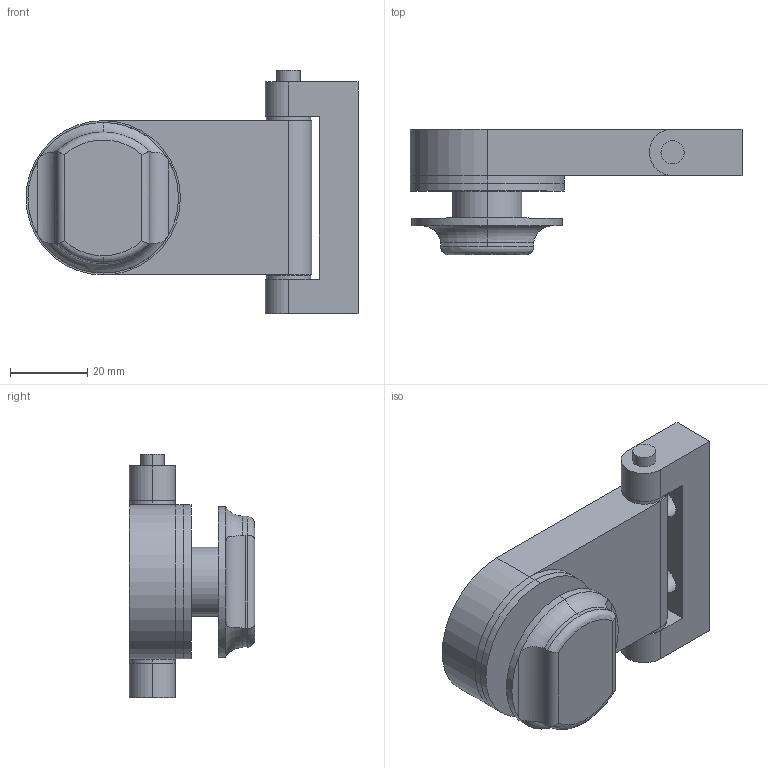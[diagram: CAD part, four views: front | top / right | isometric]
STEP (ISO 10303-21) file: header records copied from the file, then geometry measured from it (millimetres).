
FILE_DESCRIPTION (( 'STEP AP203' ), '1' );
FILE_NAME ('XG02-123-2.STEP', '2025-05-29T06:57:56', ( '微软用户' ), ( '微软中国' ), 'SwSTEP 2.0', 'SolidWorks 2024', '' );
FILE_SCHEMA (( 'CONFIG_CONTROL_DESIGN' ));
Length unit declared in the file: millimetre
Products named in the file (3): XG02-123-2PART2; XG02-123-2PART1; XG02-123-2
Assembly tree (2 placements, depth 2):
  XG02-123-2
    XG02-123-2PART1
    XG02-123-2PART2
Bounding box: 86 x 32.5 x 63 mm (x, y, z)
Volume: 57136.9 mm3; surface area: 20870 mm2
Topology: 4 solids, 4 shells, 96 faces, 224 edges, 134 vertices
Faces by surface type: cylinder 48, plane 30, sphere 12, torus 6
Entity records: 3115 total; most frequent: CARTESIAN_POINT 607, DIRECTION 512, ORIENTED_EDGE 424, EDGE_CURVE 212, AXIS2_PLACEMENT_3D 211, VERTEX_POINT 134, CIRCLE 110, EDGE_LOOP 110
